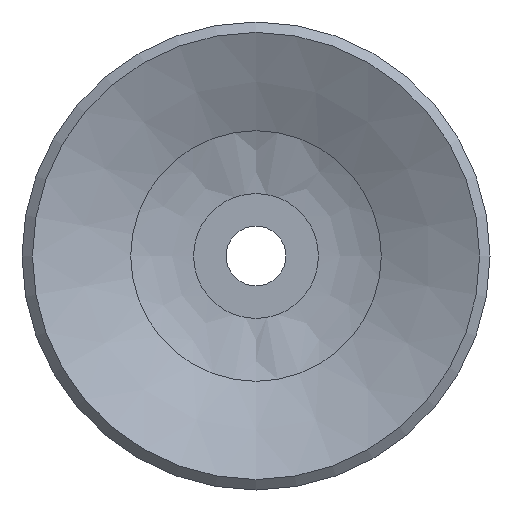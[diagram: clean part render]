
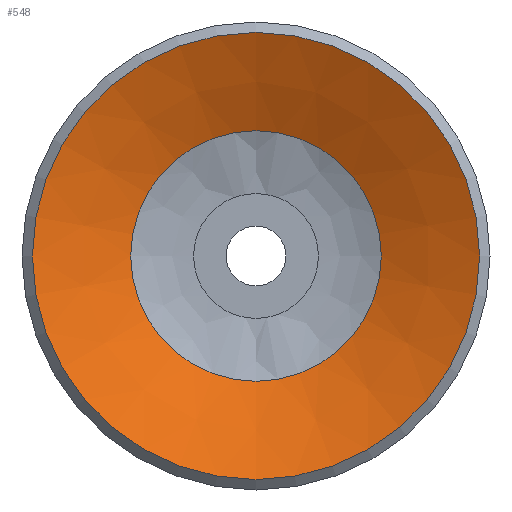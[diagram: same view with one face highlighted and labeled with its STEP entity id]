
A CAD part, front view. The second image highlights one B-rep face of the part: STEP entity #548.
In plain terms, the highlighted conical face has half-angle 65.056 degrees and reference radius 3.2 mm.
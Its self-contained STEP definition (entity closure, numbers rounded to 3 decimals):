
#548=ADVANCED_FACE('',(#802,#803),#804,.F.);
#802=FACE_BOUND('',#1099,.T.);
#803=FACE_OUTER_BOUND('',#1100,.T.);
#804=CONICAL_SURFACE('',#1101,3.2,1.135);
#1099=EDGE_LOOP('',(#1821));
#1100=EDGE_LOOP('',(#1822));
#1101=AXIS2_PLACEMENT_3D('',#1823,#1824,#1825);
#1821=ORIENTED_EDGE('',*,*,#2139,.T.);
#1822=ORIENTED_EDGE('',*,*,#2132,.T.);
#1823=CARTESIAN_POINT('',(0.0,7.896,0.0));
#1824=DIRECTION('',(-0.0,-1.0,0.));
#1825=DIRECTION('',(0.0,0.,-1.0));
#2132=EDGE_CURVE('',#2453,#2453,#2454,.T.);
#2139=EDGE_CURVE('',#2467,#2467,#2468,.T.);
#2453=VERTEX_POINT('',#3153);
#2454=CIRCLE('',#3154,7.5);
#2467=VERTEX_POINT('',#3167);
#2468=CIRCLE('',#3168,4.203);
#3153=CARTESIAN_POINT('',(0.0,5.896,-7.5));
#3154=AXIS2_PLACEMENT_3D('',#3484,#3485,#3486);
#3167=CARTESIAN_POINT('',(0.0,7.43,-4.203));
#3168=AXIS2_PLACEMENT_3D('',#3505,#3506,#3507);
#3484=CARTESIAN_POINT('',(0.0,5.896,0.0));
#3485=DIRECTION('',(0.0,-1.0,0.));
#3486=DIRECTION('',(0.0,0.,-1.0));
#3505=CARTESIAN_POINT('',(0.0,7.43,0.0));
#3506=DIRECTION('',(0.0,1.0,0.));
#3507=DIRECTION('',(0.0,0.,-1.0));
